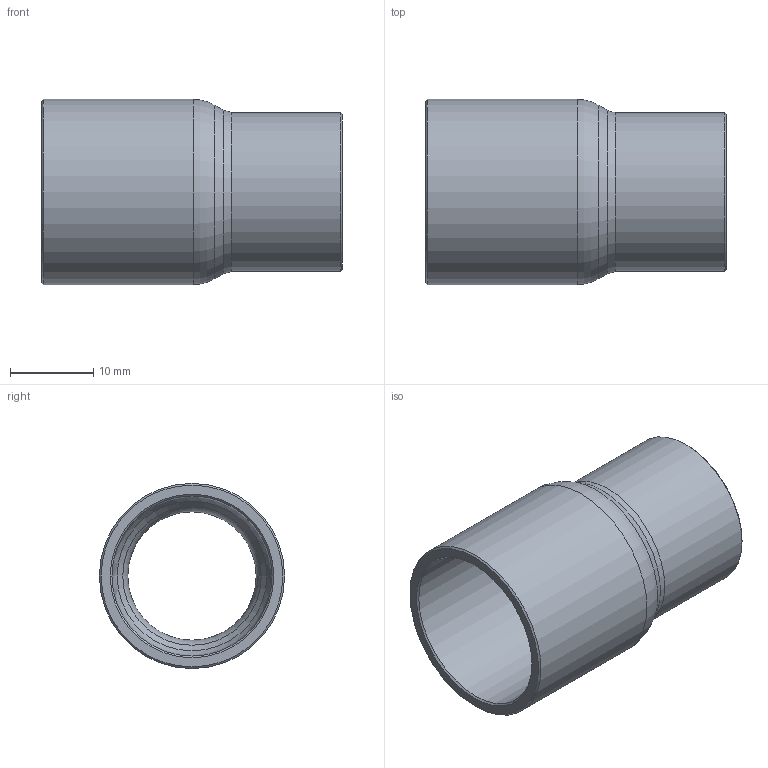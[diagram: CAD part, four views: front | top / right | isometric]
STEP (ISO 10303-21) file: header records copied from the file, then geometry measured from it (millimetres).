
FILE_DESCRIPTION((''),'2;1');
FILE_NAME('G:\SANHA-Ternat\Technik\Management\Bouwmaten + markeringen\z-maattekeningen 3D\29000s\292437858_3d.stp','2017-08-03T15:59:51',('vdvijverd'),(''),'Autodesk Inventor 2009','Autodesk Inventor 2009','');
FILE_SCHEMA(('AUTOMOTIVE_DESIGN { 1 0 10303 214 1 1 1 1 }'));
Length unit declared in the file: millimetre
Products named in the file (1): 292437858_3d
Bounding box: 36.1 x 22.23 x 22.23 mm (x, y, z)
Volume: 3399.4 mm3; surface area: 4591.3 mm2
Topology: 1 solids, 1 shells, 17 faces, 32 edges, 17 vertices
Faces by surface type: cone 6, cylinder 4, bspline 3, plane 2, torus 2
Full cylindrical faces by diameter (mm): 15.995 x1, 19.095 x1, 19.225 x1, 22.225 x1
Entity records: 494 total; most frequent: CARTESIAN_POINT 184, DIRECTION 64, ORIENTED_EDGE 34, EDGE_LOOP 34, AXIS2_PLACEMENT_3D 32, VERTEX_POINT 17, CIRCLE 17, EDGE_CURVE 17
